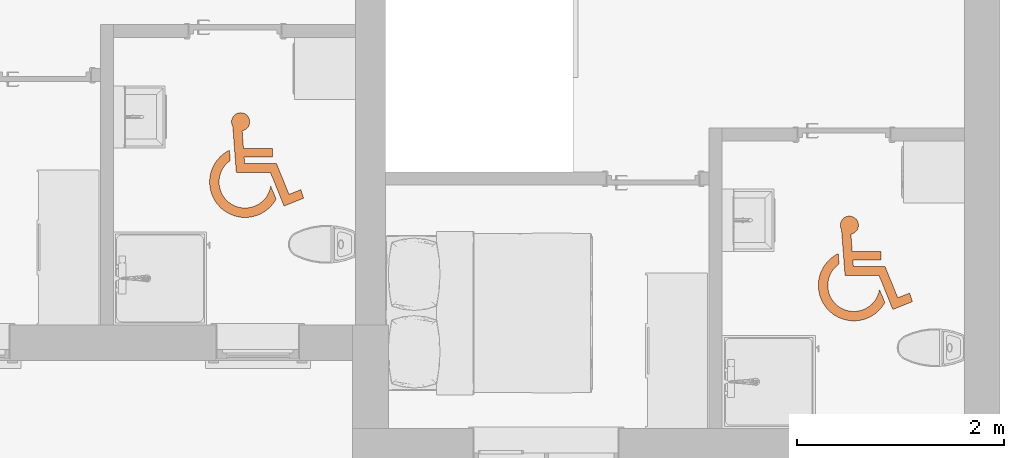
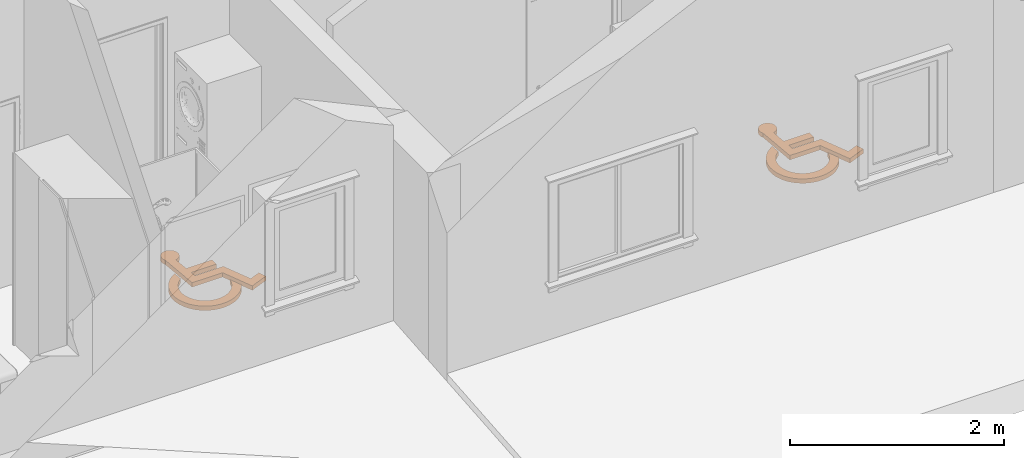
# One storey, part 44 of 44: 2 proxies.
"""IFC2X3 building model written with IfcOpenShell, lengths in millimetres."""

from ifc_helpers import new_model, entity, si_unit, converted_unit, direction, frame, frame_2d, origin, place, context, subcontext, project, spatial, polyline, circle_curve, parameter, trimmed, segment, composite_curve, outline, extrude, source, transform, mapped, material, type_object, type_shapes, element, save


model = new_model("IFC2X3")

# Units and contexts
model_context = context("Model", 3, precision=0.01, world=origin(), true_north=direction((0.0, 1.0)))
body_context = subcontext(model_context, "Body", "Model", "MODEL_VIEW")
ifc_project = project(units=[si_unit("LENGTHUNIT", "METRE", prefix="MILLI"), si_unit("AREAUNIT", "SQUARE_METRE"), si_unit("VOLUMEUNIT", "CUBIC_METRE"), converted_unit("PLANEANGLEUNIT", "DEGREE", entity("IfcPlaneAngleMeasure", 0.017453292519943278), si_unit("PLANEANGLEUNIT", "RADIAN"), dimensions=[0, 0, 0, 0, 0, 0, 0])], contexts=[model_context])

# Site, building, storey, space
site_placement = place(None, origin())
site = spatial("IfcSite", under=ifc_project, at=site_placement, Name="Default", CompositionType="ELEMENT")
building_placement = place(site_placement, origin())
building = spatial("IfcBuilding", under=site, at=building_placement, CompositionType="ELEMENT")
storey_placement = place(building_placement, frame((0.0, 0.0, 2681.0)))
storey = spatial("IfcBuildingStorey", under=building, at=storey_placement, Name="Et. 2", CompositionType="ELEMENT", Elevation=2681.0)
space_1_placement = place(storey_placement, origin())
space_1 = spatial("IfcSpace", under=storey, at=space_1_placement, Name="211", CompositionType="ELEMENT", InteriorOrExteriorSpace="INTERNAL")

# Proxy
ifc_material = material(Name="<Unnamed>")
building_element_proxy_type = type_object("IfcBuildingElementProxyType", Name="HC-Sirkel:HC-Sirkel 1500", PredefinedType="NOTDEFINED", material=ifc_material)
shared_shape = source(origin(), body_context, "Body", "SweptSolid", [
    extrude(outline(composite_curve([segment(polyline([(73.08456968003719, 24.171348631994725), (425.99666421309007, 24.171348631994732)]), True, "CONTINUOUS"), segment(polyline([(425.99666421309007, 24.171348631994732), (427.1926952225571, 228.68994682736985)]), True, "CONTINUOUS"), segment(polyline([(427.1926952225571, 228.68994682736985), (340.35156526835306, 233.53866508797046)]), True, "CONTINUOUS"), segment(polyline([(340.35156526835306, 233.53866508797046), (339.63518552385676, 111.0393486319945)]), True, "CONTINUOUS"), segment(polyline([(339.6351855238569, 111.03934863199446), (14.63240316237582, 111.0393486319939)]), True, "CONTINUOUS"), segment(polyline([(14.63240316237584, 111.03934863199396), (-101.05350558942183, -173.4621822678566)]), True, "CONTINUOUS"), segment(polyline([(-101.05350558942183, -173.4621822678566), (-161.10905457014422, -154.21614490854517)]), True, "CONTINUOUS"), segment(polyline([(-161.10905457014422, -154.21614490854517), (-58.48199197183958, 98.17031024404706)]), True, "CONTINUOUS"), segment(polyline([(-58.48199197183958, 98.17031024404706), (-134.6802137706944, 129.15453906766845)]), True, "CONTINUOUS"), segment(polyline([(-134.6802137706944, 129.15453906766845), (-239.66899573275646, -129.0399940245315)]), True, "CONTINUOUS"), segment(polyline([(-239.66899573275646, -129.0399940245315), (-401.0728035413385, -77.3148201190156)]), True, "CONTINUOUS"), segment(trimmed(circle_curve(frame_2d((-487.01248088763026, -58.10761128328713), x_axis=(0.37667652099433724, 0.9263448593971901)), 88.05989446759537), [parameter(279.52961143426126)], [parameter(210.67771042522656)], True, "PARAMETER"), True, "CONTINUOUS"), segment(polyline([(-473.920796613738, -145.1889113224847), (-50.905721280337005, -280.7528031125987)]), True, "CONTINUOUS"), segment(polyline([(-50.905721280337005, -280.7528031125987), (73.08456968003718, 24.171348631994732)]), True, "CONTINUOUS")], self_intersect=False)), frame((126.0677393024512, 10.200709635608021, 0.0), z_axis=(0.0, 0.0, 1.0), x_axis=(0.3766765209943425, -0.9263448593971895, 0.0)), (0.0, 0.0, 1.0), 49.99999999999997),
    extrude(outline(composite_curve([segment(trimmed(circle_curve(frame_2d((-72.25049651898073, -69.30966368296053), x_axis=(-0.07600280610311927, 0.9971076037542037)), 251.58701275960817), [parameter(9.02057374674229)], [parameter(235.3157901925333)], True, "PARAMETER"), False, "CONTINUOUS"), segment(polyline([(-130.467335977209, 175.44904319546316), (-260.8342111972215, 217.2277929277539)]), True, "CONTINUOUS"), segment(trimmed(circle_curve(frame_2d((-72.25049651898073, -69.30966368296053), x_axis=(-0.07600280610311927, 0.9971076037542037)), 343.02701275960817), [parameter(28.991942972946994)], [parameter(243.9059842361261)], True, "PARAMETER"), True, "CONTINUOUS"), segment(polyline([(246.38915425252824, -196.3384180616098), (144.9123929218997, -196.33841806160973)]), True, "CONTINUOUS")], self_intersect=False)), frame((-4.764332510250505, -65.4156728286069, 0.0), z_axis=(0.0, 0.0, -1.0), x_axis=(-0.07600280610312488, 0.997107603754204, 0.0)), (0.0, 0.0, -1.0), 50.0),
])
type_shapes(building_element_proxy_type, [shared_shape])
proxy_1_placement = place(space_1_placement, frame((27032.009586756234, 11279.058719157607, 0.0)))
element("IfcBuildingElementProxy", 1, at=proxy_1_placement, inside=space_1, type_object=building_element_proxy_type, material=ifc_material, Name="HC-Sirkel:HC-Sirkel 1500", context=body_context, shape_type="MappedRepresentation", body=[
    mapped(shared_shape, transform((0.0, 0.0, 0.0), scale=1.0)),
])

# Space
space_2_placement = place(storey_placement, origin())
space_2 = spatial("IfcSpace", under=storey, at=space_2_placement, Name="215", CompositionType="ELEMENT", InteriorOrExteriorSpace="INTERNAL")

# Proxy
proxy_2_placement = place(space_2_placement, frame((32919.00958675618, 10279.058719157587, 0.0)))
element("IfcBuildingElementProxy", 2, at=proxy_2_placement, inside=space_2, type_object=building_element_proxy_type, material=ifc_material, Name="HC-Sirkel:HC-Sirkel 1500", context=body_context, shape_type="MappedRepresentation", body=[
    mapped(shared_shape, transform((0.0, 0.0, 0.0), scale=1.0)),
])

save(model, "model.ifc")
